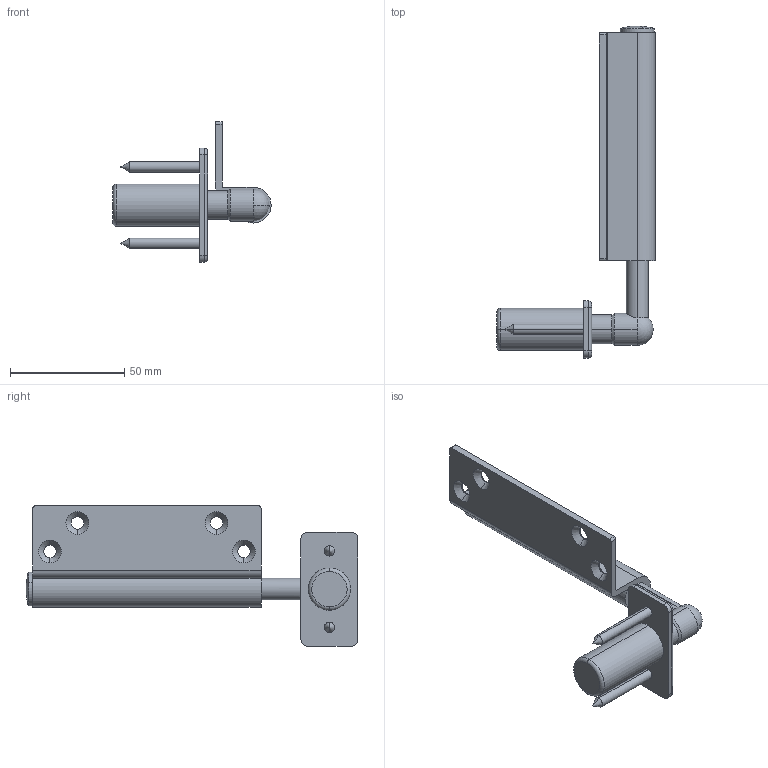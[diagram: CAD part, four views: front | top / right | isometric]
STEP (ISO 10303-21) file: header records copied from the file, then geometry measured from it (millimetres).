
FILE_DESCRIPTION (( 'STEP AP214' ), '1' );
FILE_NAME ('E3 Wall Pivot Right - Closed.STEP', '2024-06-26T01:07:53', ( '' ), ( '' ), 'SwSTEP 2.0', 'SolidWorks 2023', '' );
FILE_SCHEMA (( 'AUTOMOTIVE_DESIGN' ));
Length unit declared in the file: millimetre
Products named in the file (4): E3 Wall Pivot Right - Closed; E3 Wall Pivot Body^E3 Wall Pivot; E3 Offset Flap^E3 Wall Pivot; E3 Hinge Cap^E3 Wall Pivot
Assembly tree (3 placements, depth 2):
  E3 Wall Pivot Right - Closed
    E3 Wall Pivot Body^E3 Wall Pivot
    E3 Offset Flap^E3 Wall Pivot
    E3 Hinge Cap^E3 Wall Pivot
Bounding box: 69.35 x 145.5 x 61.5 mm (x, y, z)
Volume: 50583.1 mm3; surface area: 27015.7 mm2
Topology: 3 solids, 3 shells, 120 faces, 274 edges, 168 vertices
Faces by surface type: cylinder 46, plane 46, cone 18, torus 6, sphere 4
Entity records: 3536 total; most frequent: DIRECTION 647, CARTESIAN_POINT 603, ORIENTED_EDGE 544, EDGE_CURVE 272, AXIS2_PLACEMENT_3D 250, VERTEX_POINT 168, VECTOR 147, LINE 147
